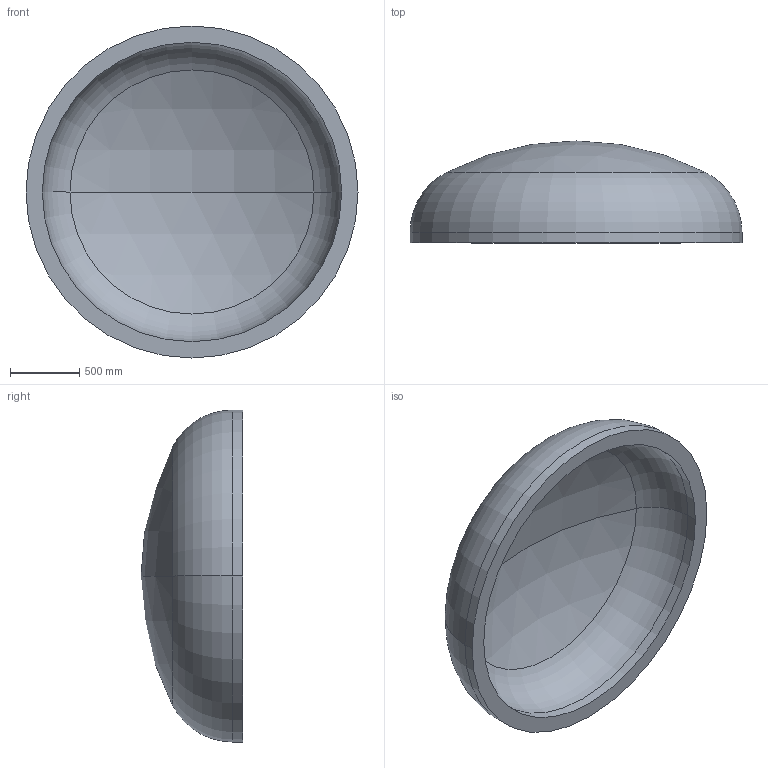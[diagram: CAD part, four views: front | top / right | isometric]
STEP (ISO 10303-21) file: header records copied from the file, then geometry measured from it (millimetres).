
FILE_DESCRIPTION (( 'STEP AP203' ), '1' );
FILE_NAME ('DIN 28013 Korbbogenform_-_Boden DIN 28013 - 2400 x 75 - I - s=118.step', '2016-07-01T15:47:18', ( '' ), ( '' ), 'SwSTEP 2.0', 'SolidWorks 2013', '' );
FILE_SCHEMA (( 'CONFIG_CONTROL_DESIGN' ));
Length unit declared in the file: millimetre
Products named in the file (1): DIN 28013 Korbbogenform_-_Boden DIN 28013 - 2400 x 75 - I - s=118
Bounding box: 2400 x 736.21 x 2400 mm (x, y, z)
Volume: 757635714.4 mm3; surface area: 13716397.5 mm2
Topology: 1 solids, 1 shells, 13 faces, 24 edges, 14 vertices
Faces by surface type: torus 4, cylinder 4, sphere 4, plane 1
Entity records: 407 total; most frequent: DIRECTION 72, CARTESIAN_POINT 52, ORIENTED_EDGE 48, AXIS2_PLACEMENT_3D 34, EDGE_CURVE 24, CIRCLE 20, EDGE_LOOP 14, VERTEX_POINT 14
